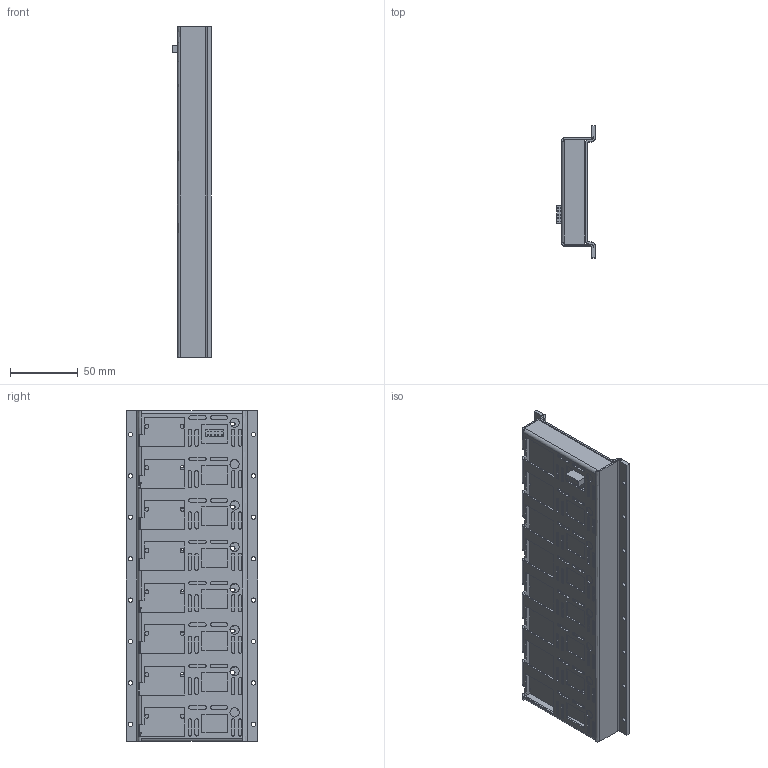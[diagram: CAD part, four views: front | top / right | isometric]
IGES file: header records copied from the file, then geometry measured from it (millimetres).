
Start section:  PTC IGES file: cu_scxi-1357_8-slot.igs
Global section: file name: cu_scxi-1357_8-slot.igs; native system: Pro/ENGINEER by Parametric Technology Corporation; preprocessor: 2010230; author: jjorden; organization: Unknown; date: 20110816.102048; units: inch
Bounding box: 28.37 x 96.77 x 243.55 mm (x, y, z)
Surface area: 136915.2 mm2 (no closed solid volume)
Topology: 0 solids, 0 shells, 1483 faces, 8398 edges, 8358 vertices
Faces by surface type: bspline 811, revolution 672
